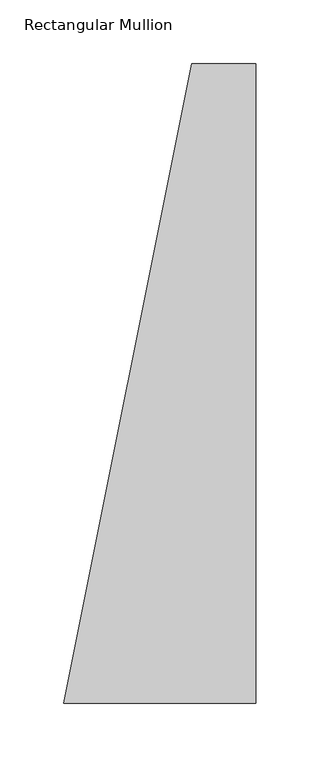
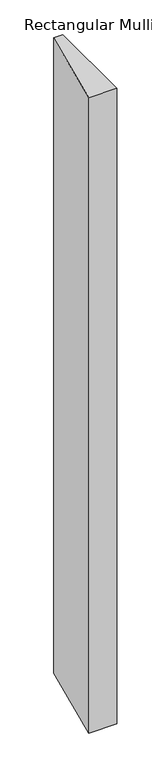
"""IFC4 building model written with IfcOpenShell, lengths in millimetres: member geometry, Rectangular Mullion : 500(350+150)x150x50mm."""

from ifc_helpers import new_model, si_unit, frame, origin, place, context, project, spatial, polyline, outline, extrude, source, transform, mapped, element, save


def rectangular_mullion_bddba97f(model_context):
    return source(origin(), model_context, "Body", "SweptSolid", [
        extrude(outline(polyline([(0.0, 150.0), (0.0, -350.0), (-150.0, -350.0), (-50.0, 150.0), (0.0, 150.0)])), frame((0.0, 0.0, -3600.0), z_axis=(0.0, 0.0, 1.0), x_axis=(1.0, 0.0, 0.0)), (0.0, 0.0, 1.0), 3600.0),
    ])


if __name__ == "__main__":
    model = new_model("IFC4")
    model_context = context("Model", 3, world=origin())
    ifc_project = project(units=[si_unit("LENGTHUNIT", "METRE", prefix="MILLI")], contexts=[model_context])
    site = spatial("IfcSite", under=ifc_project)
    building = spatial("IfcBuilding", under=site)
    placement = place(None, origin())
    rectangular_mullion_shape = rectangular_mullion_bddba97f(model_context)
    element("IfcMember", 1, ObjectType="Rectangular Mullion : 500(350+150)x150x50mm", at=placement, inside=building, context=model_context, shape_type="MappedRepresentation", body=[
        mapped(rectangular_mullion_shape, transform((0.0, 0.0, 0.0), x_axis=(1.0, 0.0, 0.0), y_axis=(0.0, 1.0, 0.0), z_axis=(0.0, 0.0, 1.0))),
    ])
    save(model, "model.ifc")
